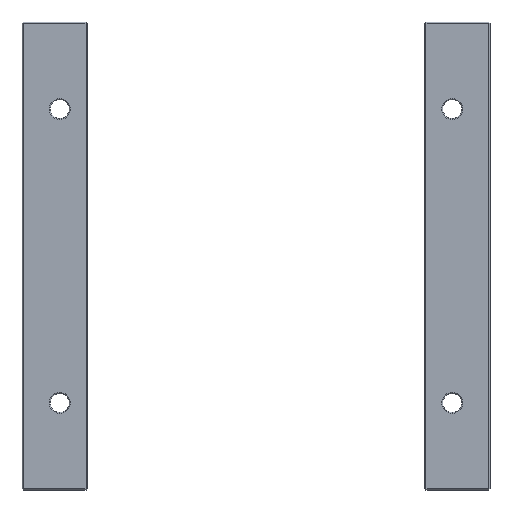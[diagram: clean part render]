
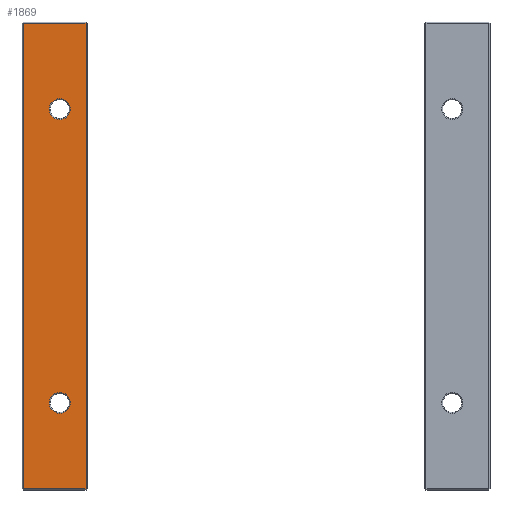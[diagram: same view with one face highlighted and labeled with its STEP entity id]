
A CAD part, front view. The second image highlights one B-rep face of the part: STEP entity #1869.
In plain terms, the highlighted planar face has unit normal (0, -1, 0).
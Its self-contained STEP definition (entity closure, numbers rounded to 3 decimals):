
#17 = VERTEX_POINT ( 'NONE', #41 ) ;
#20 = DIRECTION ( 'NONE',  ( 0., 0., -1. ) ) ;
#41 = CARTESIAN_POINT ( 'NONE',  ( -162., 0., -222. ) ) ;
#92 = ORIENTED_EDGE ( 'NONE', *, *, #1571, .T. ) ;
#129 = EDGE_CURVE ( 'NONE', #1602, #589, #409, .T. ) ;
#133 = VECTOR ( 'NONE', #613, 1000. ) ;
#143 = EDGE_CURVE ( 'NONE', #17, #271, #366, .T. ) ;
#159 = DIRECTION ( 'NONE',  ( 0., -1., 0. ) ) ;
#169 = EDGE_CURVE ( 'NONE', #990, #17, #267, .T. ) ;
#184 = VECTOR ( 'NONE', #639, 1000. ) ;
#215 = EDGE_CURVE ( 'NONE', #1314, #990, #238, .T. ) ;
#238 = LINE ( 'NONE', #1039, #133 ) ;
#248 = EDGE_CURVE ( 'NONE', #271, #1314, #385, .T. ) ;
#264 = EDGE_CURVE ( 'NONE', #589, #1602, #1271, .T. ) ;
#267 = LINE ( 'NONE', #318, #184 ) ;
#271 = VERTEX_POINT ( 'NONE', #1618 ) ;
#288 = EDGE_CURVE ( 'NONE', #1008, #896, #856, .T. ) ;
#303 = DIRECTION ( 'NONE',  ( 0., 0., -1. ) ) ;
#318 = CARTESIAN_POINT ( 'NONE',  ( -161., 0., -222. ) ) ;
#340 = VECTOR ( 'NONE', #661, 1000. ) ;
#346 = CARTESIAN_POINT ( 'NONE',  ( 0., 0., 0. ) ) ;
#362 = CARTESIAN_POINT ( 'NONE',  ( -187., 0., 150. ) ) ;
#366 = LINE ( 'NONE', #593, #340 ) ;
#385 = LINE ( 'NONE', #1162, #1216 ) ;
#386 = CARTESIAN_POINT ( 'NONE',  ( -222., 0., 222. ) ) ;
#409 = CIRCLE ( 'NONE', #1096, 10. ) ;
#437 = AXIS2_PLACEMENT_3D ( 'NONE', #1762, #1770, #1796 ) ;
#504 = AXIS2_PLACEMENT_3D ( 'NONE', #346, #159, #20 ) ;
#573 = EDGE_LOOP ( 'NONE', ( #1622, #1617, #1579, #1344 ) ) ;
#589 = VERTEX_POINT ( 'NONE', #362 ) ;
#593 = CARTESIAN_POINT ( 'NONE',  ( -162., 0., 223. ) ) ;
#613 = DIRECTION ( 'NONE',  ( 0., 0., -1. ) ) ;
#631 = PLANE ( 'NONE',  #504 ) ;
#639 = DIRECTION ( 'NONE',  ( 1., 0., 0. ) ) ;
#661 = DIRECTION ( 'NONE',  ( 0., 0., 1. ) ) ;
#784 = CARTESIAN_POINT ( 'NONE',  ( -187., 0., -130. ) ) ;
#856 = CIRCLE ( 'NONE', #1839, 10. ) ;
#857 = CARTESIAN_POINT ( 'NONE',  ( -187., 0., 130. ) ) ;
#896 = VERTEX_POINT ( 'NONE', #1225 ) ;
#906 = CARTESIAN_POINT ( 'NONE',  ( -187., 0., 140. ) ) ;
#914 = DIRECTION ( 'NONE',  ( 0., 1., 0. ) ) ;
#980 = AXIS2_PLACEMENT_3D ( 'NONE', #1241, #1234, #1390 ) ;
#990 = VERTEX_POINT ( 'NONE', #1056 ) ;
#998 = EDGE_LOOP ( 'NONE', ( #92, #1809 ) ) ;
#1004 = FACE_BOUND ( 'NONE', #1564, .T. ) ;
#1008 = VERTEX_POINT ( 'NONE', #784 ) ;
#1039 = CARTESIAN_POINT ( 'NONE',  ( -222., 0., -223. ) ) ;
#1042 = FACE_OUTER_BOUND ( 'NONE', #573, .T. ) ;
#1056 = CARTESIAN_POINT ( 'NONE',  ( -222., 0., -222. ) ) ;
#1096 = AXIS2_PLACEMENT_3D ( 'NONE', #906, #914, #303 ) ;
#1162 = CARTESIAN_POINT ( 'NONE',  ( -223., 0., 222. ) ) ;
#1216 = VECTOR ( 'NONE', #1353, 1000. ) ;
#1225 = CARTESIAN_POINT ( 'NONE',  ( -187., 0., -150. ) ) ;
#1234 = DIRECTION ( 'NONE',  ( 0., 1., 0. ) ) ;
#1241 = CARTESIAN_POINT ( 'NONE',  ( -187., 0., -140. ) ) ;
#1271 = CIRCLE ( 'NONE', #437, 10. ) ;
#1314 = VERTEX_POINT ( 'NONE', #386 ) ;
#1344 = ORIENTED_EDGE ( 'NONE', *, *, #143, .T. ) ;
#1353 = DIRECTION ( 'NONE',  ( -1., 0., 0. ) ) ;
#1390 = DIRECTION ( 'NONE',  ( 0., 0., -1. ) ) ;
#1466 = FACE_BOUND ( 'NONE', #998, .T. ) ;
#1564 = EDGE_LOOP ( 'NONE', ( #1765, #1682 ) ) ;
#1571 = EDGE_CURVE ( 'NONE', #896, #1008, #1716, .T. ) ;
#1579 = ORIENTED_EDGE ( 'NONE', *, *, #169, .T. ) ;
#1602 = VERTEX_POINT ( 'NONE', #857 ) ;
#1613 = CARTESIAN_POINT ( 'NONE',  ( -187., 0., -140. ) ) ;
#1617 = ORIENTED_EDGE ( 'NONE', *, *, #215, .T. ) ;
#1618 = CARTESIAN_POINT ( 'NONE',  ( -162., 0., 222. ) ) ;
#1622 = ORIENTED_EDGE ( 'NONE', *, *, #248, .T. ) ;
#1626 = DIRECTION ( 'NONE',  ( 0., 1., 0. ) ) ;
#1682 = ORIENTED_EDGE ( 'NONE', *, *, #264, .T. ) ;
#1716 = CIRCLE ( 'NONE', #980, 10. ) ;
#1762 = CARTESIAN_POINT ( 'NONE',  ( -187., 0., 140. ) ) ;
#1765 = ORIENTED_EDGE ( 'NONE', *, *, #129, .T. ) ;
#1770 = DIRECTION ( 'NONE',  ( 0., 1., 0. ) ) ;
#1796 = DIRECTION ( 'NONE',  ( 0., 0., -1. ) ) ;
#1809 = ORIENTED_EDGE ( 'NONE', *, *, #288, .T. ) ;
#1839 = AXIS2_PLACEMENT_3D ( 'NONE', #1613, #1626, #1921 ) ;
#1869 = ADVANCED_FACE ( 'NONE', ( #1466, #1004, #1042 ), #631, .T. ) ;
#1921 = DIRECTION ( 'NONE',  ( 0., 0., -1. ) ) ;
